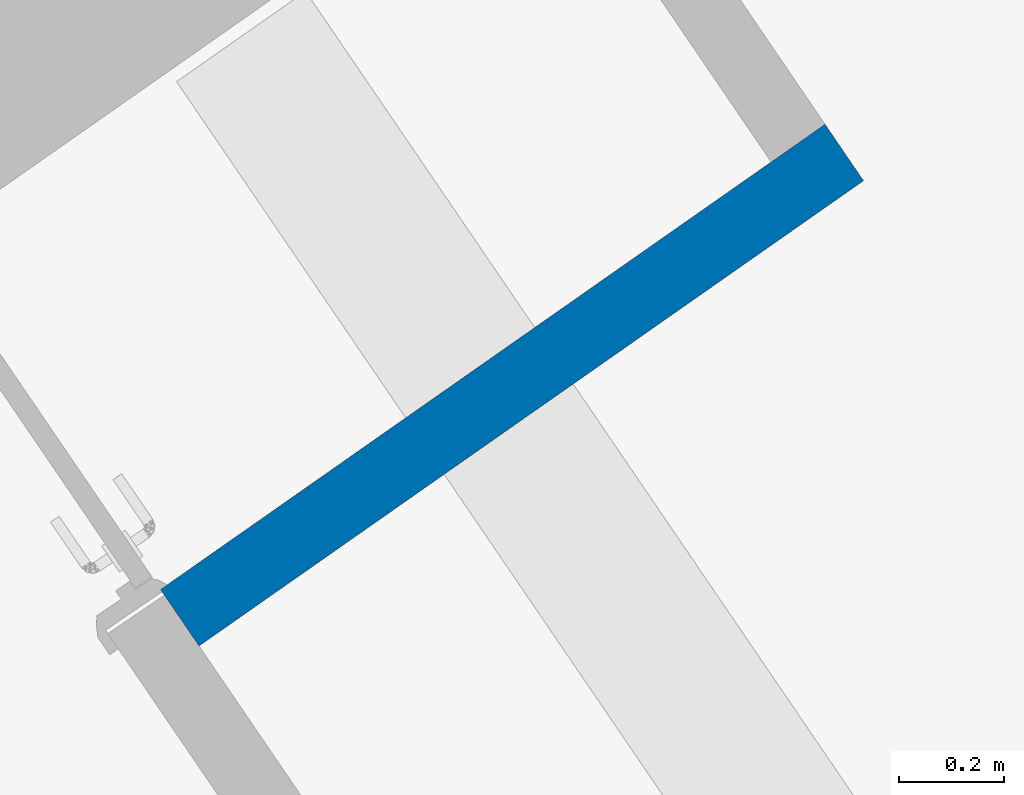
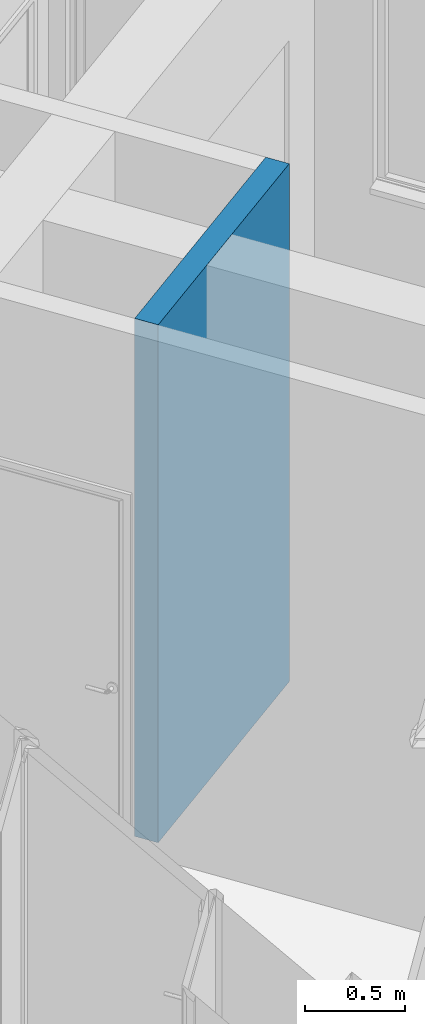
# One storey, part 52 of 112: 1 wall.
"""IFC2X3 building model written with IfcOpenShell, lengths in millimetres."""

from ifc_helpers import new_model, entity, si_unit, converted_unit, derived_unit, direction, frame, origin, place, context, subcontext, project, spatial, polyline, outline, extrude, material, layer, layer_set, layer_usage, type_object, element, save


model = new_model("IFC2X3")

# Units and contexts
model_context = context("Model", 3, precision=0.01, world=origin(), true_north=direction((6.123031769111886e-17, 1.0)))
body_context = subcontext(model_context, "Body", "Model", "MODEL_VIEW")
ifc_project = project(units=[si_unit("LENGTHUNIT", "METRE", prefix="MILLI"), si_unit("AREAUNIT", "SQUARE_METRE"), si_unit("VOLUMEUNIT", "CUBIC_METRE"), converted_unit("PLANEANGLEUNIT", "DEGREE", entity("IfcRatioMeasure", 0.017453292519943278), si_unit("PLANEANGLEUNIT", "RADIAN"), dimensions=[0, 0, 0, 0, 0, 0, 0]), si_unit("MASSUNIT", "GRAM", prefix="KILO"), derived_unit("MASSDENSITYUNIT", [(si_unit("MASSUNIT", "GRAM", prefix="KILO"), 1), (si_unit("LENGTHUNIT", "METRE"), -3)]), derived_unit("MOMENTOFINERTIAUNIT", [(si_unit("LENGTHUNIT", "METRE"), 4)]), si_unit("TIMEUNIT", "SECOND"), si_unit("FREQUENCYUNIT", "HERTZ"), si_unit("THERMODYNAMICTEMPERATUREUNIT", "DEGREE_CELSIUS"), derived_unit("THERMALTRANSMITTANCEUNIT", [(si_unit("MASSUNIT", "GRAM", prefix="KILO"), 1), (si_unit("THERMODYNAMICTEMPERATUREUNIT", "KELVIN"), -1), (si_unit("TIMEUNIT", "SECOND"), -3)]), derived_unit("THERMALCONDUCTANCEUNIT", [(si_unit("MASSUNIT", "GRAM", prefix="KILO"), 1), (si_unit("LENGTHUNIT", "METRE"), 1), (si_unit("THERMODYNAMICTEMPERATUREUNIT", "KELVIN"), -1), (si_unit("TIMEUNIT", "SECOND"), -3)]), derived_unit("VOLUMETRICFLOWRATEUNIT", [(si_unit("LENGTHUNIT", "METRE"), 3), (si_unit("TIMEUNIT", "SECOND"), -1)]), derived_unit("MASSFLOWRATEUNIT", [(si_unit("MASSUNIT", "GRAM", prefix="KILO"), 1), (si_unit("TIMEUNIT", "SECOND"), -1)]), derived_unit("ROTATIONALFREQUENCYUNIT", [(si_unit("TIMEUNIT", "SECOND"), -1)]), si_unit("ELECTRICCURRENTUNIT", "AMPERE"), si_unit("ELECTRICVOLTAGEUNIT", "VOLT"), si_unit("POWERUNIT", "WATT"), converted_unit("FORCEUNIT", "KIP", entity("IfcRatioMeasure", 2.088543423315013e-05), si_unit("FORCEUNIT", "NEWTON"), dimensions=[1, 1, -2, 0, 0, 0, 0]), si_unit("ILLUMINANCEUNIT", "LUX"), si_unit("LUMINOUSFLUXUNIT", "LUMEN"), si_unit("LUMINOUSINTENSITYUNIT", "CANDELA"), derived_unit("USERDEFINED", [(si_unit("MASSUNIT", "GRAM", prefix="KILO"), -1), (si_unit("LENGTHUNIT", "METRE"), -2), (si_unit("TIMEUNIT", "SECOND"), 3), (si_unit("LUMINOUSFLUXUNIT", "LUMEN"), 1)]), derived_unit("USERDEFINED", [(si_unit("MASSUNIT", "GRAM", prefix="KILO"), 1), (si_unit("LENGTHUNIT", "METRE"), 3), (si_unit("TIMEUNIT", "SECOND"), -3), (si_unit("ELECTRICCURRENTUNIT", "AMPERE"), -2)]), derived_unit("USERDEFINED", [(si_unit("LENGTHUNIT", "METRE"), 2), (si_unit("TIMEUNIT", "SECOND"), -2)]), derived_unit("SOUNDPOWERUNIT", [(si_unit("MASSUNIT", "GRAM", prefix="KILO"), 1), (si_unit("LENGTHUNIT", "METRE"), 2), (si_unit("TIMEUNIT", "SECOND"), -3)]), derived_unit("SOUNDPRESSUREUNIT", [(si_unit("MASSUNIT", "GRAM", prefix="KILO"), 1), (si_unit("LENGTHUNIT", "METRE"), -1), (si_unit("TIMEUNIT", "SECOND"), -2)]), derived_unit("LINEARVELOCITYUNIT", [(si_unit("LENGTHUNIT", "METRE"), 1), (si_unit("TIMEUNIT", "SECOND"), -1)]), si_unit("PRESSUREUNIT", "PASCAL"), derived_unit("USERDEFINED", [(si_unit("LENGTHUNIT", "METRE"), -2), (si_unit("MASSUNIT", "GRAM", prefix="KILO"), 1), (si_unit("TIMEUNIT", "SECOND"), -2)]), derived_unit("LINEARFORCEUNIT", [(si_unit("MASSUNIT", "GRAM", prefix="KILO"), 1), (si_unit("LENGTHUNIT", "METRE"), 1), (si_unit("TIMEUNIT", "SECOND"), -2), (si_unit("LENGTHUNIT", "METRE"), -1)]), derived_unit("PLANARFORCEUNIT", [(si_unit("MASSUNIT", "GRAM", prefix="KILO"), 1), (si_unit("LENGTHUNIT", "METRE"), 1), (si_unit("TIMEUNIT", "SECOND"), -2), (si_unit("LENGTHUNIT", "METRE"), -2)]), derived_unit("SPECIFICHEATCAPACITYUNIT", [(si_unit("LENGTHUNIT", "METRE"), 2), (si_unit("TIMEUNIT", "SECOND"), -2), (si_unit("THERMODYNAMICTEMPERATUREUNIT", "KELVIN"), -1)]), derived_unit("VAPORPERMEABILITYUNIT", [(si_unit("TIMEUNIT", "SECOND"), 1), (si_unit("LENGTHUNIT", "METRE"), -1)]), derived_unit("DYNAMICVISCOSITYUNIT", [(si_unit("MASSUNIT", "GRAM", prefix="KILO"), 1), (si_unit("LENGTHUNIT", "METRE"), -1), (si_unit("TIMEUNIT", "SECOND"), -1)]), derived_unit("THERMALEXPANSIONCOEFFICIENTUNIT", [(si_unit("THERMODYNAMICTEMPERATUREUNIT", "KELVIN"), -1)])], contexts=[model_context])

# Site, building, storey
site_placement = place(None, frame((0.0, 0.0, 0.0), z_axis=(0.0, 0.0, 1.0), x_axis=(0.8191520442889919, 0.5735764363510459, 0.0)))
site = spatial("IfcSite", under=ifc_project, at=site_placement, Name="Default", CompositionType="ELEMENT")
building_placement = place(site_placement, origin())
building = spatial("IfcBuilding", under=site, at=building_placement, CompositionType="ELEMENT")
storey_placement = place(building_placement, frame((0.0, 0.0, -3600.0)))
storey = spatial("IfcBuildingStorey", under=building, at=storey_placement, Name="0.UG -3.60", CompositionType="ELEMENT", Elevation=-3600.0000000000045)

# Wall
ifc_material = material(Name="Analytical Wall Surface_CJC")
ifc_layer = layer(ifc_material, 130.0)
ifc_layer_set = layer_set([ifc_layer], Name="Basic Wall:Wand_Innen_13")
ifc_layer_usage = layer_usage(ifc_layer_set, "AXIS2", "NEGATIVE", 65.0)
wall_type = type_object("IfcWallType", Name="Basic Wall:Wand_Innen_13", PredefinedType="STANDARD", material=ifc_layer_set)
wall_placement = place(storey_placement, frame((-209419.37720533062, 72381.35891435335, 300.0)))
element("IfcWallStandardCase", 1, at=wall_placement, inside=storey, type_object=wall_type, material=ifc_layer_usage, Name="Basic Wall:Wand_Innen_13", ObjectType="Basic Wall:Wand_Innen_13", context=body_context, shape_type="SweptSolid", body=[
    extrude(outline(polyline([(1545.1251929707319, -65.0), (1546.7801734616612, 65.0), (1421.770044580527, 65.0), (1.6549804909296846, 65.0), (1.4902952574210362, 52.06384729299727), (0.0, -65.0), (1545.1251929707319, -65.0)])), origin(), (0.0, 0.0, 1.0), 3150.0),
])

save(model, "model.ifc")
